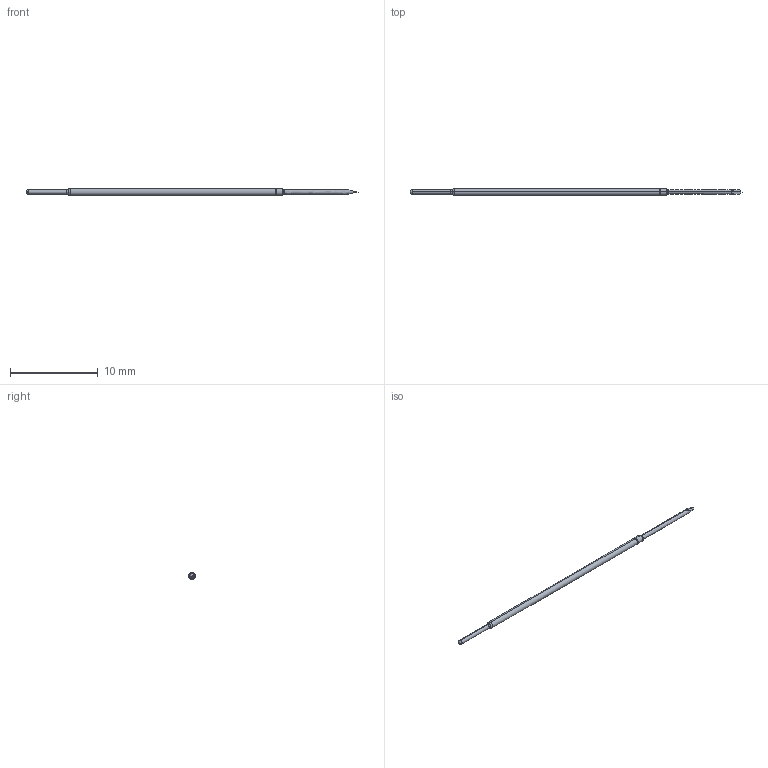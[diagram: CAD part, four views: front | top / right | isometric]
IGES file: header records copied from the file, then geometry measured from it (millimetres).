
Start section: SolidWorks IGES file using analytic representation for surfaces
Global section: file name: C:\Documents and Settings\mrumschlag\Desktop\changes\new\test\I.IGS; native system: SolidWorks 2011; preprocessor: SolidWorks 2011; author: mrumschlag; date: 110630.142731; units: inch
Bounding box: 37.93 x 0.76 x 0.76 mm (x, y, z)
Surface area: 80.6 mm2 (no closed solid volume)
Topology: 0 solids, 0 shells, 27 faces, 166 edges, 164 vertices
Faces by surface type: revolution 14, bspline 13
